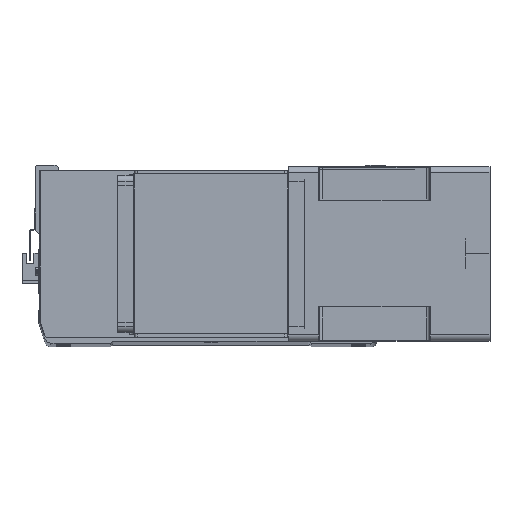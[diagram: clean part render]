
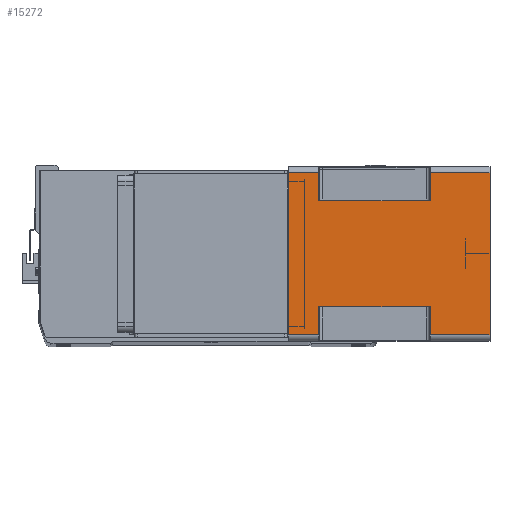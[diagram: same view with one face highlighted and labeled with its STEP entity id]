
A CAD part, top view. The second image highlights one B-rep face of the part: STEP entity #15272.
In plain terms, the highlighted planar face has unit normal (0, 0, 1) as drawn and (1, 0, 0) by its records, which use the part's own axes.
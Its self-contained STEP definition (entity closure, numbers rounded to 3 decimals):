
#35 = LINE ( 'NONE', #27735, #20973 ) ;
#135 = EDGE_LOOP ( 'NONE', ( #3145, #25289, #801, #27688, #28889, #7658, #22924, #22478, #16217, #25027, #1821, #24386 ) ) ;
#371 = EDGE_CURVE ( 'NONE', #9206, #27400, #22536, .T. ) ;
#801 = ORIENTED_EDGE ( 'NONE', *, *, #29720, .F. ) ;
#1328 = CARTESIAN_POINT ( 'NONE',  ( 71., -43., -24.5 ) ) ;
#1428 = VERTEX_POINT ( 'NONE', #24041 ) ;
#1821 = ORIENTED_EDGE ( 'NONE', *, *, #14515, .F. ) ;
#1925 = EDGE_CURVE ( 'NONE', #31000, #29955, #28330, .T. ) ;
#1952 = VERTEX_POINT ( 'NONE', #31003 ) ;
#1976 = VERTEX_POINT ( 'NONE', #7083 ) ;
#2033 = CARTESIAN_POINT ( 'NONE',  ( 71., -43., -24.5 ) ) ;
#2140 = VECTOR ( 'NONE', #2396, 1000. ) ;
#2396 = DIRECTION ( 'NONE',  ( 0., 1., 0. ) ) ;
#2511 = EDGE_CURVE ( 'NONE', #31208, #1976, #18310, .T. ) ;
#2882 = CARTESIAN_POINT ( 'NONE',  ( 71., -66., -164. ) ) ;
#2995 = DIRECTION ( 'NONE',  ( 0., 1., 0. ) ) ;
#3145 = ORIENTED_EDGE ( 'NONE', *, *, #4478, .F. ) ;
#3264 = LINE ( 'NONE', #6172, #8217 ) ;
#3650 = LINE ( 'NONE', #7185, #2140 ) ;
#4478 = EDGE_CURVE ( 'NONE', #12919, #27400, #8974, .T. ) ;
#5093 = EDGE_CURVE ( 'NONE', #23212, #29955, #20391, .T. ) ;
#5236 = CARTESIAN_POINT ( 'NONE',  ( 71., -66., -164. ) ) ;
#5552 = EDGE_CURVE ( 'NONE', #8312, #31000, #3650, .T. ) ;
#6172 = CARTESIAN_POINT ( 'NONE',  ( 71., 66., -164. ) ) ;
#6659 = CARTESIAN_POINT ( 'NONE',  ( 71., -43., -164. ) ) ;
#6942 = DIRECTION ( 'NONE',  ( 0., 1., 0. ) ) ;
#7083 = CARTESIAN_POINT ( 'NONE',  ( 71., 43., -115.5 ) ) ;
#7185 = CARTESIAN_POINT ( 'NONE',  ( 71., -66., -24.5 ) ) ;
#7302 = VECTOR ( 'NONE', #16988, 1000. ) ;
#7436 = DIRECTION ( 'NONE',  ( 0., 0., 1. ) ) ;
#7658 = ORIENTED_EDGE ( 'NONE', *, *, #2511, .T. ) ;
#8086 = VECTOR ( 'NONE', #28499, 1000. ) ;
#8139 = CARTESIAN_POINT ( 'NONE',  ( 71., 66., -164. ) ) ;
#8217 = VECTOR ( 'NONE', #27749, 1000. ) ;
#8312 = VERTEX_POINT ( 'NONE', #18884 ) ;
#8828 = VECTOR ( 'NONE', #28216, 1000. ) ;
#8974 = LINE ( 'NONE', #6659, #30270 ) ;
#9206 = VERTEX_POINT ( 'NONE', #17907 ) ;
#9417 = CARTESIAN_POINT ( 'NONE',  ( 71., 66., -164. ) ) ;
#9460 = CARTESIAN_POINT ( 'NONE',  ( 71., -66., -164. ) ) ;
#9652 = EDGE_CURVE ( 'NONE', #8312, #1976, #35, .T. ) ;
#9688 = CARTESIAN_POINT ( 'NONE',  ( 71., 66., -115.5 ) ) ;
#10807 = CARTESIAN_POINT ( 'NONE',  ( 71., -43., -115.5 ) ) ;
#12702 = VECTOR ( 'NONE', #21513, 1000. ) ;
#12919 = VERTEX_POINT ( 'NONE', #10807 ) ;
#13139 = CARTESIAN_POINT ( 'NONE',  ( 71., 66., 0. ) ) ;
#14092 = CARTESIAN_POINT ( 'NONE',  ( 71., -66., 0. ) ) ;
#14273 = LINE ( 'NONE', #9460, #16154 ) ;
#14515 = EDGE_CURVE ( 'NONE', #9206, #23212, #16046, .T. ) ;
#14677 = CARTESIAN_POINT ( 'NONE',  ( 71., 66., -24.5 ) ) ;
#14977 = DIRECTION ( 'NONE',  ( 0., 1., 0. ) ) ;
#15272 = ADVANCED_FACE ( 'NONE', ( #15616 ), #17534, .T. ) ;
#15463 = LINE ( 'NONE', #20988, #24656 ) ;
#15616 = FACE_OUTER_BOUND ( 'NONE', #135, .T. ) ;
#16046 = LINE ( 'NONE', #23321, #8828 ) ;
#16154 = VECTOR ( 'NONE', #7436, 1000. ) ;
#16217 = ORIENTED_EDGE ( 'NONE', *, *, #1925, .T. ) ;
#16574 = CARTESIAN_POINT ( 'NONE',  ( 71., -66., 0. ) ) ;
#16612 = DIRECTION ( 'NONE',  ( 0., 0., 1. ) ) ;
#16988 = DIRECTION ( 'NONE',  ( 0., -1., 0. ) ) ;
#17534 = PLANE ( 'NONE',  #22267 ) ;
#17857 = DIRECTION ( 'NONE',  ( 1., 0., 0. ) ) ;
#17907 = CARTESIAN_POINT ( 'NONE',  ( 71., -66., -24.5 ) ) ;
#18118 = VECTOR ( 'NONE', #14977, 1000. ) ;
#18310 = LINE ( 'NONE', #31270, #7302 ) ;
#18742 = EDGE_CURVE ( 'NONE', #1952, #20239, #31096, .T. ) ;
#18884 = CARTESIAN_POINT ( 'NONE',  ( 71., 43., -24.5 ) ) ;
#20239 = VERTEX_POINT ( 'NONE', #8139 ) ;
#20391 = LINE ( 'NONE', #16574, #28440 ) ;
#20973 = VECTOR ( 'NONE', #24872, 1000. ) ;
#20988 = CARTESIAN_POINT ( 'NONE',  ( 71., -66., -115.5 ) ) ;
#21513 = DIRECTION ( 'NONE',  ( 0., 0., 1. ) ) ;
#22267 = AXIS2_PLACEMENT_3D ( 'NONE', #2882, #17857, #2995 ) ;
#22478 = ORIENTED_EDGE ( 'NONE', *, *, #5552, .T. ) ;
#22536 = LINE ( 'NONE', #2033, #8086 ) ;
#22924 = ORIENTED_EDGE ( 'NONE', *, *, #9652, .F. ) ;
#23212 = VERTEX_POINT ( 'NONE', #14092 ) ;
#23239 = DIRECTION ( 'NONE',  ( 0., -1., 0. ) ) ;
#23321 = CARTESIAN_POINT ( 'NONE',  ( 71., -66., -164. ) ) ;
#24041 = CARTESIAN_POINT ( 'NONE',  ( 71., -66., -115.5 ) ) ;
#24386 = ORIENTED_EDGE ( 'NONE', *, *, #371, .T. ) ;
#24656 = VECTOR ( 'NONE', #23239, 1000. ) ;
#24872 = DIRECTION ( 'NONE',  ( 0., 0., -1. ) ) ;
#25027 = ORIENTED_EDGE ( 'NONE', *, *, #5093, .F. ) ;
#25289 = ORIENTED_EDGE ( 'NONE', *, *, #31358, .T. ) ;
#27400 = VERTEX_POINT ( 'NONE', #1328 ) ;
#27688 = ORIENTED_EDGE ( 'NONE', *, *, #18742, .T. ) ;
#27735 = CARTESIAN_POINT ( 'NONE',  ( 71., 43., -164. ) ) ;
#27749 = DIRECTION ( 'NONE',  ( 0., 0., 1. ) ) ;
#28216 = DIRECTION ( 'NONE',  ( 0., 0., 1. ) ) ;
#28330 = LINE ( 'NONE', #9417, #12702 ) ;
#28440 = VECTOR ( 'NONE', #6942, 1000. ) ;
#28499 = DIRECTION ( 'NONE',  ( 0., 1., 0. ) ) ;
#28889 = ORIENTED_EDGE ( 'NONE', *, *, #29530, .T. ) ;
#29530 = EDGE_CURVE ( 'NONE', #20239, #31208, #3264, .T. ) ;
#29720 = EDGE_CURVE ( 'NONE', #1952, #1428, #14273, .T. ) ;
#29955 = VERTEX_POINT ( 'NONE', #13139 ) ;
#30270 = VECTOR ( 'NONE', #16612, 1000. ) ;
#31000 = VERTEX_POINT ( 'NONE', #14677 ) ;
#31003 = CARTESIAN_POINT ( 'NONE',  ( 71., -66., -164. ) ) ;
#31096 = LINE ( 'NONE', #5236, #18118 ) ;
#31208 = VERTEX_POINT ( 'NONE', #9688 ) ;
#31270 = CARTESIAN_POINT ( 'NONE',  ( 71., 43., -115.5 ) ) ;
#31358 = EDGE_CURVE ( 'NONE', #12919, #1428, #15463, .T. ) ;
